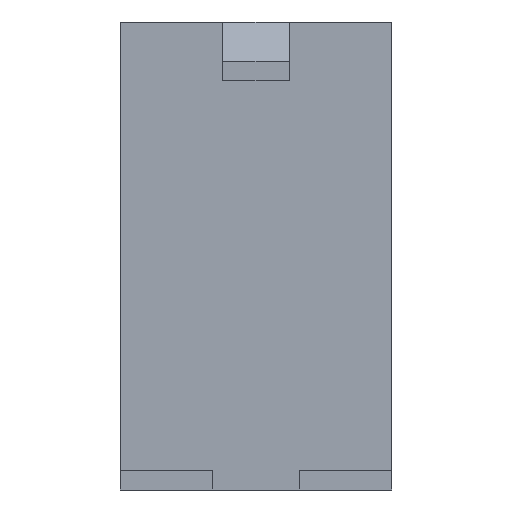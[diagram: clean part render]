
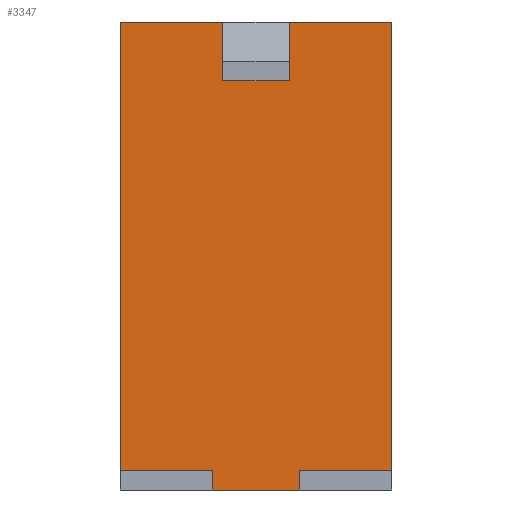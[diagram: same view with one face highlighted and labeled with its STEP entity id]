
A CAD part, front view. The second image highlights one B-rep face of the part: STEP entity #3347.
In plain terms, the highlighted planar face has unit normal (0, -1, 0).
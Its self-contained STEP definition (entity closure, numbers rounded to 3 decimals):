
#76=DIRECTION('',(0.,0.,-1.));
#77=VECTOR('',#76,22.8);
#78=CARTESIAN_POINT('',(-6.9,-4.8,0.));
#79=LINE('',#78,#77);
#668=DIRECTION('',(-1.,0.,0.));
#669=VECTOR('',#668,4.4);
#670=CARTESIAN_POINT('',(2.2,-4.8,-23.8));
#671=LINE('',#670,#669);
#964=DIRECTION('',(0.,0.,-1.));
#965=VECTOR('',#964,1.);
#966=CARTESIAN_POINT('',(-2.2,-4.8,-22.8));
#967=LINE('',#966,#965);
#972=DIRECTION('',(1.,0.,0.));
#973=VECTOR('',#972,4.7);
#974=CARTESIAN_POINT('',(-6.9,-4.8,-22.8));
#975=LINE('',#974,#973);
#980=DIRECTION('',(1.,0.,0.));
#981=VECTOR('',#980,4.7);
#982=CARTESIAN_POINT('',(2.2,-4.8,-22.8));
#983=LINE('',#982,#981);
#1000=DIRECTION('',(0.,0.,-1.));
#1001=VECTOR('',#1000,1.);
#1002=CARTESIAN_POINT('',(2.2,-4.8,-22.8));
#1003=LINE('',#1002,#1001);
#1004=DIRECTION('',(1.,0.,0.));
#1005=VECTOR('',#1004,5.2);
#1006=CARTESIAN_POINT('',(-6.9,-4.8,0.));
#1007=LINE('',#1006,#1005);
#1008=DIRECTION('',(0.,0.,-1.));
#1009=VECTOR('',#1008,2.753);
#1010=CARTESIAN_POINT('',(-1.7,-4.8,0.));
#1011=LINE('',#1010,#1009);
#1012=DIRECTION('',(1.,0.,0.));
#1013=VECTOR('',#1012,3.4);
#1014=CARTESIAN_POINT('',(-1.7,-4.8,-2.753));
#1015=LINE('',#1014,#1013);
#1016=DIRECTION('',(0.,0.,-1.));
#1017=VECTOR('',#1016,2.753);
#1018=CARTESIAN_POINT('',(1.7,-4.8,0.));
#1019=LINE('',#1018,#1017);
#1020=DIRECTION('',(1.,0.,0.));
#1021=VECTOR('',#1020,5.2);
#1022=CARTESIAN_POINT('',(1.7,-4.8,0.));
#1023=LINE('',#1022,#1021);
#1084=DIRECTION('',(0.,0.,-1.));
#1085=VECTOR('',#1084,22.8);
#1086=CARTESIAN_POINT('',(6.9,-4.8,0.));
#1087=LINE('',#1086,#1085);
#1661=CARTESIAN_POINT('',(-6.9,-4.8,0.));
#1663=VERTEX_POINT('',#1661);
#1664=CARTESIAN_POINT('',(-6.9,-4.8,-22.8));
#1665=VERTEX_POINT('',#1664);
#1677=CARTESIAN_POINT('',(6.9,-4.8,0.));
#1679=VERTEX_POINT('',#1677);
#1680=CARTESIAN_POINT('',(6.9,-4.8,-22.8));
#1681=VERTEX_POINT('',#1680);
#1700=CARTESIAN_POINT('',(-1.7,-4.8,0.));
#1701=CARTESIAN_POINT('',(1.7,-4.8,0.));
#1702=VERTEX_POINT('',#1700);
#1703=VERTEX_POINT('',#1701);
#1704=CARTESIAN_POINT('',(-1.7,-4.8,-2.753));
#1705=VERTEX_POINT('',#1704);
#1706=CARTESIAN_POINT('',(1.7,-4.8,-2.753));
#1707=VERTEX_POINT('',#1706);
#1708=CARTESIAN_POINT('',(-2.2,-4.8,-22.8));
#1710=VERTEX_POINT('',#1708);
#1712=CARTESIAN_POINT('',(2.2,-4.8,-22.8));
#1714=VERTEX_POINT('',#1712);
#1720=CARTESIAN_POINT('',(-2.2,-4.8,-23.8));
#1721=VERTEX_POINT('',#1720);
#1722=CARTESIAN_POINT('',(2.2,-4.8,-23.8));
#1723=VERTEX_POINT('',#1722);
#3324=CARTESIAN_POINT('',(-6.9,-4.8,0.));
#3325=DIRECTION('',(0.,-1.,0.));
#3326=DIRECTION('',(0.,0.,-1.));
#3327=AXIS2_PLACEMENT_3D('',#3324,#3325,#3326);
#3328=PLANE('',#3327);
#3329=ORIENTED_EDGE('',*,*,#3276,.F.);
#3330=ORIENTED_EDGE('',*,*,#3319,.T.);
#3331=ORIENTED_EDGE('',*,*,#3053,.T.);
#3332=ORIENTED_EDGE('',*,*,#3247,.F.);
#3333=ORIENTED_EDGE('',*,*,#3264,.F.);
#3334=ORIENTED_EDGE('',*,*,#2191,.F.);
#3335=ORIENTED_EDGE('',*,*,#2225,.T.);
#3337=ORIENTED_EDGE('',*,*,#3336,.T.);
#3339=ORIENTED_EDGE('',*,*,#3338,.T.);
#3341=ORIENTED_EDGE('',*,*,#3340,.F.);
#3342=ORIENTED_EDGE('',*,*,#2221,.T.);
#3344=ORIENTED_EDGE('',*,*,#3343,.T.);
#3345=EDGE_LOOP('',(#3329,#3330,#3331,#3332,#3333,#3334,#3335,#3337,#3339,#3341,
#3342,#3344));
#3346=FACE_OUTER_BOUND('',#3345,.F.);
#3347=ADVANCED_FACE('',(#3346),#3328,.T.);
#2191=EDGE_CURVE('',#1663,#1665,#79,.T.);
#2221=EDGE_CURVE('',#1703,#1679,#1023,.T.);
#2225=EDGE_CURVE('',#1663,#1702,#1007,.T.);
#3053=EDGE_CURVE('',#1723,#1721,#671,.T.);
#3247=EDGE_CURVE('',#1710,#1721,#967,.T.);
#3264=EDGE_CURVE('',#1665,#1710,#975,.T.);
#3276=EDGE_CURVE('',#1714,#1681,#983,.T.);
#3319=EDGE_CURVE('',#1714,#1723,#1003,.T.);
#3336=EDGE_CURVE('',#1702,#1705,#1011,.T.);
#3338=EDGE_CURVE('',#1705,#1707,#1015,.T.);
#3340=EDGE_CURVE('',#1703,#1707,#1019,.T.);
#3343=EDGE_CURVE('',#1679,#1681,#1087,.T.);
